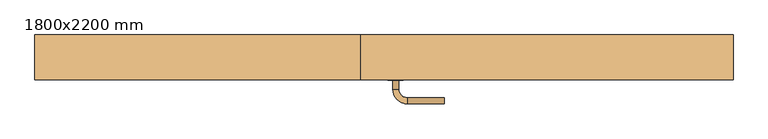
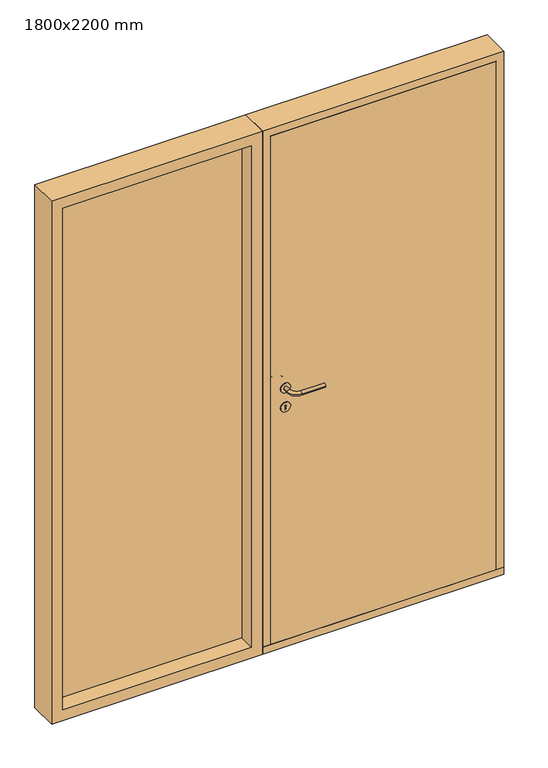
"""IFC4 building model written with IfcOpenShell, lengths in millimetres: door geometry, Ext. Door inw. Window Assembly : 1800x2200 mm."""

from ifc_helpers import new_model, si_unit, point, frame, frame_2d, origin, place, context, project, spatial, polyline, circle_curve, ellipse_curve, trimmed, segment, composite_curve, outline, extrude, faceted_brep, source, transform, mapped, element, save
from ifc_brep_helpers import plane_surface, cylinder_surface, revolved_surface, advanced_brep


def door_1800x2200_mm_7a9b0269(model_context):
    return source(origin(), model_context, "Body", "SolidModel", [
        extrude(outline(composite_curve([segment(trimmed(circle_curve(frame_2d((1090.0, 30.0)), 20.0), [point((1070.0, 30.0))], [point((1110.0, 30.0))], False, "CARTESIAN"), True, "CONTINUOUS"), segment(trimmed(circle_curve(frame_2d((1090.0, 30.0)), 20.0), [point((1110.0, 30.0))], [point((1070.0, 30.0))], False, "CARTESIAN"), True, "CONTINUOUS")], self_intersect=False)), frame((0.0, 73.0, 0.0), z_axis=(0.0, 1.0, 0.0), x_axis=(0.0, 0.0, 1.0)), (0.0, 0.0, 1.0), 2.0),
        advanced_brep(
        [(22.5, 73.0, 1090.0), (37.5, 73.0, 1090.0), (37.5, 50.5, 1090.0), (22.5, 50.5, 1090.0), (60.0, 28.0, 1090.0), (60.0, 13.0, 1090.0), (155.0, 28.0, 1090.0), (155.0, 13.0, 1090.0)],
        [
            (0, 1, circle_curve(frame((30.0, 73.0, 1090.0), z_axis=(0.0, 1.0, 0.0), x_axis=(1.0, 0.0, 0.0)), 7.5)),
            (1, 0, circle_curve(frame((30.0, 73.0, 1090.0), z_axis=(0.0, 1.0, 0.0), x_axis=(1.0, 0.0, 0.0)), 7.5)),
            (1, 2),
            (2, 3, circle_curve(frame((30.0, 50.5, 1090.0), z_axis=(0.0, 1.0, 0.0), x_axis=(1.0, 0.0, 0.0)), 7.5)),
            (3, 0),
            (3, 2, circle_curve(frame((30.0, 50.5, 1090.0), z_axis=(0.0, 1.0, 0.0), x_axis=(1.0, 0.0, 0.0)), 7.5)),
            (4, 5, circle_curve(frame((60.0, 20.5, 1090.0), z_axis=(-1.0, 0.0, 0.0), x_axis=(0.0, 1.0, 0.0)), 7.5)),
            (5, 3, circle_curve(frame((60.0, 50.5, 1090.0), z_axis=(0.0, 0.0, -1.0), x_axis=(-1.0, 0.0, 0.0)), 37.5)),
            (2, 4, circle_curve(frame((60.0, 50.5, 1090.0), z_axis=(0.0, 0.0, 1.0), x_axis=(-1.0, 0.0, 0.0)), 22.5)),
            (5, 4, circle_curve(frame((60.0, 20.5, 1090.0), z_axis=(-1.0, 0.0, 0.0), x_axis=(0.0, 1.0, 0.0)), 7.5)),
            (4, 6),
            (6, 7, circle_curve(frame((155.0, 20.5, 1090.0), z_axis=(-1.0, 0.0, 0.0), x_axis=(0.0, 1.0, 0.0)), 7.5)),
            (7, 5),
            (7, 6, circle_curve(frame((155.0, 20.5, 1090.0), z_axis=(-1.0, 0.0, 0.0), x_axis=(0.0, 1.0, 0.0)), 7.5)),
        ],
        [
            plane_surface(frame((30.0, 73.0, 1090.0), z_axis=(0.0, 1.0, 0.0), x_axis=(0.0, 0.0, -1.0))),
            cylinder_surface(frame((30.0, 73.0, 1090.0), z_axis=(0.0, 1.0, 0.0), x_axis=(1.0, 0.0, 0.0)), 7.5),
            revolved_surface(trimmed(ellipse_curve(frame((30.0, 50.5, 1090.0), z_axis=(0.0, -1.0, 0.0), x_axis=(1.0, 0.0, 0.0)), 7.5, 7.5), [point((22.5, 50.5, 1090.0))], [point((37.5, 50.5, 1090.0))], True, "CARTESIAN"), (60.0, 50.5, 1090.0), (0.0, 0.0, -1.0)),
            revolved_surface(trimmed(ellipse_curve(frame((30.0, 50.5, 1090.0), z_axis=(0.0, -1.0, 0.0), x_axis=(1.0, 0.0, 0.0)), 7.5, 7.5), [point((37.5, 50.5, 1090.0))], [point((22.5, 50.5, 1090.0))], True, "CARTESIAN"), (60.0, 50.5, 1090.0), (0.0, 0.0, -1.0)),
            cylinder_surface(frame((60.0, 20.5, 1090.0), z_axis=(-1.0, 0.0, 0.0), x_axis=(0.0, 1.0, 0.0)), 7.5),
            plane_surface(frame((155.0, 20.5, 1090.0), z_axis=(1.0, 0.0, 0.0), x_axis=(0.0, 0.0, -1.0))),
        ],
        [
            (0, [[1, 2]]),
            (1, [[3, 4, 5, -2]]),
            (1, [[-5, 6, -3, -1]]),
            (2, [[7, 8, -4, 9]]),
            (3, [[10, -9, -6, -8]]),
            (4, [[11, 12, 13, -7]]),
            (4, [[-13, 14, -11, -10]]),
            (5, [[-12, -14]]),
        ],
    ),
        extrude(outline(composite_curve([segment(trimmed(circle_curve(frame_2d((1010.0, 30.0)), 20.0), [point((990.0, 30.0))], [point((1030.0, 30.0))], False, "CARTESIAN"), True, "CONTINUOUS"), segment(trimmed(circle_curve(frame_2d((1010.0, 30.0)), 20.0), [point((1030.0, 30.0))], [point((990.0, 30.0))], False, "CARTESIAN"), True, "CONTINUOUS")], self_intersect=False), holes=[composite_curve([segment(trimmed(circle_curve(frame_2d((1015.0, 30.0)), 3.0), [point((1012.4019238, 28.5))], [point((1012.4019238, 31.5))], True, "CARTESIAN"), True, "CONTINUOUS"), segment(polyline([(1012.4019238, 31.5), (1000.0, 31.5), (1000.0, 28.5), (1012.4019238, 28.5)]), True, "CONTINUOUS")], self_intersect=False)]), frame((0.0, 73.0, 0.0), z_axis=(0.0, 1.0, 0.0), x_axis=(0.0, 0.0, 1.0)), (0.0, 0.0, 1.0), 2.0),
        extrude(outline(composite_curve([segment(trimmed(circle_curve(frame_2d((1090.0, 30.0)), 20.0), [point((1070.0, 30.0))], [point((1110.0, 30.0))], False, "CARTESIAN"), True, "CONTINUOUS"), segment(trimmed(circle_curve(frame_2d((1090.0, 30.0)), 20.0), [point((1110.0, 30.0))], [point((1070.0, 30.0))], False, "CARTESIAN"), True, "CONTINUOUS")], self_intersect=False)), frame((0.0, 125.0, 0.0), z_axis=(0.0, 1.0, 0.0), x_axis=(0.0, 0.0, 1.0)), (0.0, 0.0, 1.0), 2.0),
        advanced_brep(
        [(22.5, 127.0, 1090.0), (37.5, 127.0, 1090.0), (22.5, 149.5, 1090.0), (37.5, 149.5, 1090.0), (60.0, 172.0, 1090.0), (60.0, 187.0, 1090.0), (155.0, 187.0, 1090.0), (155.0, 172.0, 1090.0)],
        [
            (0, 1, circle_curve(frame((30.0, 127.0, 1090.0), z_axis=(0.0, -1.0, 0.0), x_axis=(1.0, 0.0, 0.0)), 7.5)),
            (1, 0, circle_curve(frame((30.0, 127.0, 1090.0), z_axis=(0.0, -1.0, 0.0), x_axis=(1.0, 0.0, 0.0)), 7.5)),
            (0, 2),
            (2, 3, circle_curve(frame((30.0, 149.5, 1090.0), z_axis=(0.0, -1.0, 0.0), x_axis=(1.0, 0.0, 0.0)), 7.5)),
            (3, 1),
            (3, 2, circle_curve(frame((30.0, 149.5, 1090.0), z_axis=(0.0, -1.0, 0.0), x_axis=(1.0, 0.0, 0.0)), 7.5)),
            (4, 3, circle_curve(frame((60.0, 149.5, 1090.0), z_axis=(0.0, 0.0, 1.0), x_axis=(-1.0, 0.0, 0.0)), 22.5)),
            (2, 5, circle_curve(frame((60.0, 149.5, 1090.0), z_axis=(0.0, 0.0, -1.0), x_axis=(-1.0, 0.0, 0.0)), 37.5)),
            (5, 4, circle_curve(frame((60.0, 179.5, 1090.0), z_axis=(-1.0, 0.0, 0.0), x_axis=(0.0, -1.0, 0.0)), 7.5)),
            (4, 5, circle_curve(frame((60.0, 179.5, 1090.0), z_axis=(-1.0, 0.0, 0.0), x_axis=(0.0, -1.0, 0.0)), 7.5)),
            (5, 6),
            (6, 7, circle_curve(frame((155.0, 179.5, 1090.0), z_axis=(-1.0, 0.0, 0.0), x_axis=(0.0, -1.0, 0.0)), 7.5)),
            (7, 4),
            (7, 6, circle_curve(frame((155.0, 179.5, 1090.0), z_axis=(-1.0, 0.0, 0.0), x_axis=(0.0, -1.0, 0.0)), 7.5)),
        ],
        [
            plane_surface(frame((30.0, 127.0, 1090.0), z_axis=(0.0, -1.0, 0.0), x_axis=(0.0, 0.0, -1.0))),
            cylinder_surface(frame((30.0, 127.0, 1090.0), z_axis=(0.0, -1.0, 0.0), x_axis=(1.0, 0.0, 0.0)), 7.5),
            revolved_surface(trimmed(ellipse_curve(frame((30.0, 149.5, 1090.0), z_axis=(0.0, -1.0, 0.0), x_axis=(1.0, 0.0, 0.0)), 7.5, 7.5), [point((22.5, 149.5, 1090.0))], [point((37.5, 149.5, 1090.0))], True, "CARTESIAN"), (60.0, 149.5, 1090.0), (0.0, 0.0, -1.0)),
            revolved_surface(trimmed(ellipse_curve(frame((30.0, 149.5, 1090.0), z_axis=(0.0, -1.0, 0.0), x_axis=(1.0, 0.0, 0.0)), 7.5, 7.5), [point((37.5, 149.5, 1090.0))], [point((22.5, 149.5, 1090.0))], True, "CARTESIAN"), (60.0, 149.5, 1090.0), (0.0, 0.0, -1.0)),
            cylinder_surface(frame((60.0, 179.5, 1090.0), z_axis=(-1.0, 0.0, 0.0), x_axis=(0.0, -1.0, 0.0)), 7.5),
            plane_surface(frame((155.0, 179.5, 1090.0), z_axis=(1.0, 0.0, 0.0), x_axis=(0.0, 0.0, -1.0))),
        ],
        [
            (0, [[1, 2]]),
            (1, [[-1, 3, 4, 5]]),
            (1, [[-2, -5, 6, -3]]),
            (2, [[7, -4, 8, 9]]),
            (3, [[-8, -6, -7, 10]]),
            (4, [[-9, 11, 12, 13]]),
            (4, [[-10, -13, 14, -11]]),
            (5, [[-14, -12]]),
        ],
    ),
        extrude(outline(composite_curve([segment(trimmed(circle_curve(frame_2d((1010.0, 30.0)), 20.0), [point((990.0, 30.0))], [point((1030.0, 30.0))], False, "CARTESIAN"), True, "CONTINUOUS"), segment(trimmed(circle_curve(frame_2d((1010.0, 30.0)), 20.0), [point((1030.0, 30.0))], [point((990.0, 30.0))], False, "CARTESIAN"), True, "CONTINUOUS")], self_intersect=False), holes=[composite_curve([segment(trimmed(circle_curve(frame_2d((1015.0, 30.0)), 3.0), [point((1012.4019238, 28.5))], [point((1012.4019238, 31.5))], True, "CARTESIAN"), True, "CONTINUOUS"), segment(polyline([(1012.4019238, 31.5), (1000.0, 31.5), (1000.0, 28.5), (1012.4019238, 28.5)]), True, "CONTINUOUS")], self_intersect=False)]), frame((0.0, 125.0, 0.0), z_axis=(0.0, 1.0, 0.0), x_axis=(0.0, 0.0, 1.0)), (0.0, 0.0, 1.0), 2.0),
        extrude(outline(polyline([(125.0, 45.0), (190.0, 45.0), (190.0, 0.0), (75.0, 0.0), (75.0, 30.0), (125.0, 30.0), (125.0, 45.0)])), frame((-60.0, 0.0, 0.0), z_axis=(1.0, 0.0, 0.0), x_axis=(0.0, 1.0, 0.0)), (0.0, 0.0, 1.0), 960.0),
        faceted_brep([(-30.0, 125.0, 2170.0), (-30.0, 125.0, 45.0), (-15.0, 125.0, 45.0), (-15.0, 125.0, 2155.0), (855.0, 125.0, 2155.0), (855.0, 125.0, 45.0), (870.0, 125.0, 45.0), (870.0, 125.0, 2170.0), (-30.0, 75.0, 2170.0), (-30.0, 75.0, 30.0), (-30.0, 125.0, 30.0), (870.0, 125.0, 30.0), (900.0, 125.0, 45.0), (900.0, 125.0, 30.0), (-60.0, 125.0, 30.0), (-60.0, 125.0, 45.0), (-60.0, 75.0, 30.0), (900.0, 75.0, 30.0), (870.0, 75.0, 30.0), (-60.0, 75.0, 2200.0), (870.0, 75.0, 2170.0), (900.0, 75.0, 2200.0), (855.0, 190.0, 45.0), (900.0, 190.0, 45.0), (-60.0, 190.0, 45.0), (-15.0, 190.0, 45.0), (855.0, 190.0, 2155.0), (-15.0, 190.0, 2155.0), (-60.0, 190.0, 2200.0), (900.0, 190.0, 2200.0)], [[[0, 1, 2, 3, 4, 5, 6, 7]], [[8, 9, 10, 1, 0]], [[11, 6, 12, 13]], [[14, 15, 1, 10]], [[10, 9, 16, 14]], [[13, 17, 18, 11]], [[19, 16, 9, 8, 20, 18, 17, 21]], [[7, 6, 11, 18, 20]], [[6, 5, 22, 23, 12]], [[15, 24, 25, 2, 1]], [[26, 22, 5, 4]], [[3, 2, 25, 27]], [[27, 25, 24, 28, 29, 23, 22, 26]], [[21, 17, 13, 12, 23, 29]], [[28, 24, 15, 14, 16, 19]], [[0, 7, 20, 8]], [[3, 27, 26, 4]], [[28, 19, 21, 29]]]),
        extrude(outline(polyline([(870.0, 125.0), (870.0, 75.0), (-30.0, 75.0), (-30.0, 125.0), (870.0, 125.0)])), frame((0.0, 0.0, 30.0), z_axis=(0.0, 0.0, 1.0), x_axis=(1.0, 0.0, 0.0)), (0.0, 0.0, 1.0), 2140.0),
        extrude(outline(polyline([(-105.0, 140.0), (-855.0, 140.0), (-855.0, 162.0), (-105.0, 162.0), (-105.0, 140.0)])), frame((0.0, 0.0, 45.0), z_axis=(0.0, 0.0, 1.0), x_axis=(1.0, 0.0, 0.0)), (0.0, 0.0, 1.0), 2110.0),
        extrude(outline(polyline([(2200.0, -60.0), (2200.0, -900.0), (0.0, -900.0), (0.0, -60.0), (2200.0, -60.0)]), holes=[polyline([(45.0, -105.0), (45.0, -855.0), (2155.0, -855.0), (2155.0, -105.0), (45.0, -105.0)])]), frame((0.0, 75.0, 0.0), z_axis=(0.0, 1.0, 0.0), x_axis=(0.0, 0.0, 1.0)), (0.0, 0.0, 1.0), 115.0),
    ])


if __name__ == "__main__":
    model = new_model("IFC4")
    model_context = context("Model", 3, world=origin())
    ifc_project = project(units=[si_unit("LENGTHUNIT", "METRE", prefix="MILLI")], contexts=[model_context])
    site = spatial("IfcSite", under=ifc_project)
    building = spatial("IfcBuilding", under=site)
    placement = place(None, origin())
    door_1800x2200_mm_shape = door_1800x2200_mm_7a9b0269(model_context)
    element("IfcDoor", 1, ObjectType="Ext. Door inw. Window Assembly : 1800x2200 mm", at=placement, inside=building, context=model_context, shape_type="MappedRepresentation", body=[
        mapped(door_1800x2200_mm_shape, transform((0.0, 0.0, 0.0), x_axis=(1.0, 0.0, 0.0), y_axis=(0.0, 1.0, 0.0), z_axis=(0.0, 0.0, 1.0))),
    ])
    save(model, "model.ifc")
